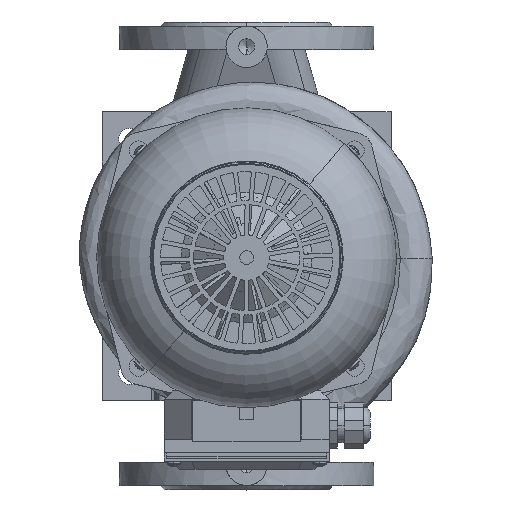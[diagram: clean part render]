
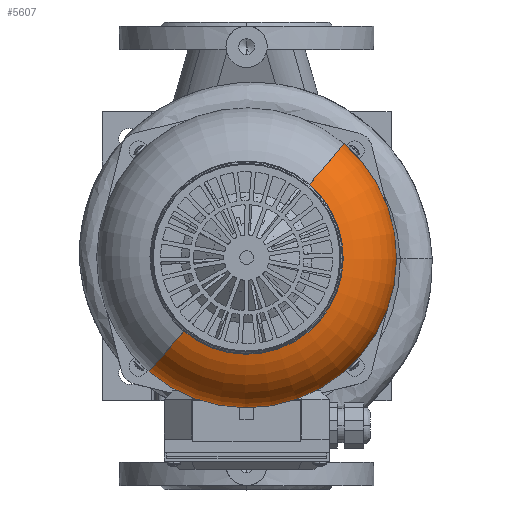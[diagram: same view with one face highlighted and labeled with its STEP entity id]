
A CAD part, top view. The second image highlights one B-rep face of the part: STEP entity #5607.
In plain terms, the highlighted toroidal (fillet/blend) face has major radius 59 mm and minor radius 50 mm.
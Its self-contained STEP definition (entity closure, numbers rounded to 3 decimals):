
#5607=ADVANCED_FACE('NONE',(#13069),#13070,.T.);
#13069=FACE_OUTER_BOUND('',#20890,.T.);
#13070=TOROIDAL_SURFACE('',#20891,59.0,50.0);
#20890=EDGE_LOOP('',(#34928,#34929,#34930,#34931));
#20891=AXIS2_PLACEMENT_3D('',#34932,#34933,#34934);
#34928=ORIENTED_EDGE('',*,*,#47517,.F.);
#34929=ORIENTED_EDGE('',*,*,#47516,.T.);
#34930=ORIENTED_EDGE('',*,*,#47518,.F.);
#34931=ORIENTED_EDGE('',*,*,#47519,.T.);
#34932=CARTESIAN_POINT('',(49.225,0.0,0.0));
#34933=DIRECTION('',(1.0,0.,0.));
#34934=DIRECTION('',(0.,0.,-1.0));
#47516=EDGE_CURVE('NONE',#59308,#59312,#59314,.T.);
#47517=EDGE_CURVE('',#59308,#59315,#59316,.T.);
#47518=EDGE_CURVE('',#59317,#59312,#59318,.T.);
#47519=EDGE_CURVE('NONE',#59317,#59315,#59319,.T.);
#59308=VERTEX_POINT('',#81307);
#59312=VERTEX_POINT('NONE',#81312);
#59314=CIRCLE('',#81315,109.);
#59315=VERTEX_POINT('NONE',#81316);
#59316=CIRCLE('',#81317,50.0);
#59317=VERTEX_POINT('',#81318);
#59318=CIRCLE('',#81319,50.0);
#59319=CIRCLE('',#81320,70.229);
#81307=CARTESIAN_POINT('',(49.225,0.,-109.));
#81312=CARTESIAN_POINT('',(49.225,0.,109.0));
#81315=AXIS2_PLACEMENT_3D('',#92982,#92983,#92984);
#81316=CARTESIAN_POINT('',(97.948,0.,-70.229));
#81317=AXIS2_PLACEMENT_3D('',#92985,#92986,#92987);
#81318=CARTESIAN_POINT('',(97.948,0.,70.229));
#81319=AXIS2_PLACEMENT_3D('',#92988,#92989,#92990);
#81320=AXIS2_PLACEMENT_3D('',#92991,#92992,#92993);
#92982=CARTESIAN_POINT('',(49.225,0.0,0.0));
#92983=DIRECTION('',(1.0,0.,0.));
#92984=DIRECTION('',(0.,0.,-1.0));
#92985=CARTESIAN_POINT('',(49.225,0.,-59.0));
#92986=DIRECTION('',(0.,-1.0,0.));
#92987=DIRECTION('',(0.,0.,-1.0));
#92988=CARTESIAN_POINT('',(49.225,0.,59.0));
#92989=DIRECTION('',(0.,-1.0,0.));
#92990=DIRECTION('',(0.,0.,1.0));
#92991=CARTESIAN_POINT('',(97.948,0.0,0.0));
#92992=DIRECTION('',(-1.0,0.,0.));
#92993=DIRECTION('',(0.,0.,1.0));
